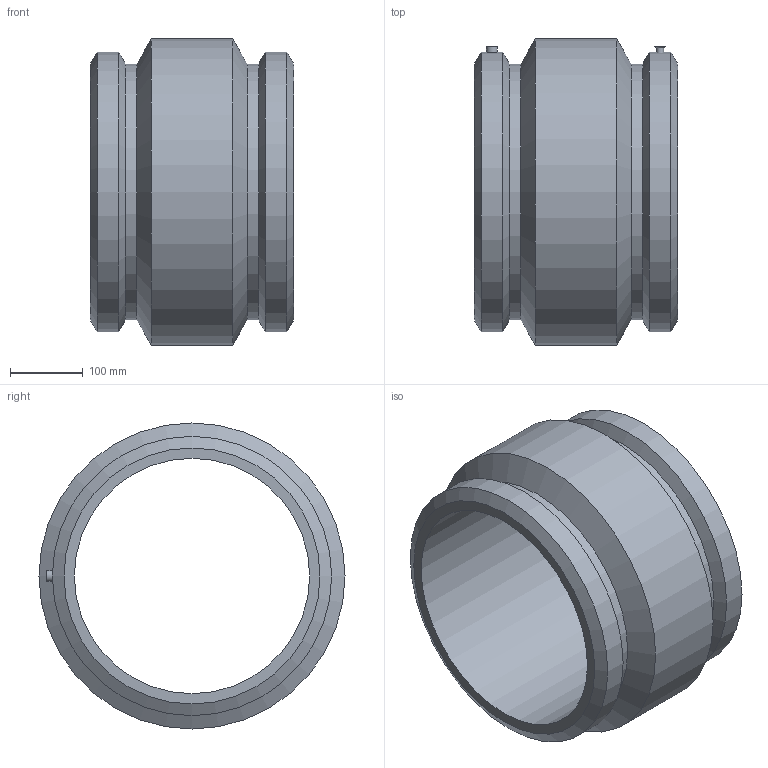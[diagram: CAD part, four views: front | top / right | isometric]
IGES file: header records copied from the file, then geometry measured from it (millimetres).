
Global section: file name: 5901D004120.ipt; native system: Autodesk Inventor 2019; preprocessor: unknown; author: KIM; date: 20210830.100928; units: inch
Bounding box: 279.4 x 420.62 x 420.62 mm (x, y, z)
Volume: 11117179.8 mm3; surface area: 752167.9 mm2
Topology: 1 solids, 2 shells, 28 faces, 56 edges, 36 vertices
Faces by surface type: cylinder 9, plane 8, cone 6, revolution 3, bspline 2
Full cylindrical faces by diameter (mm): 4 x2, 15 x2, 351.82 x2, 383.804 x2, 420.624 x1
